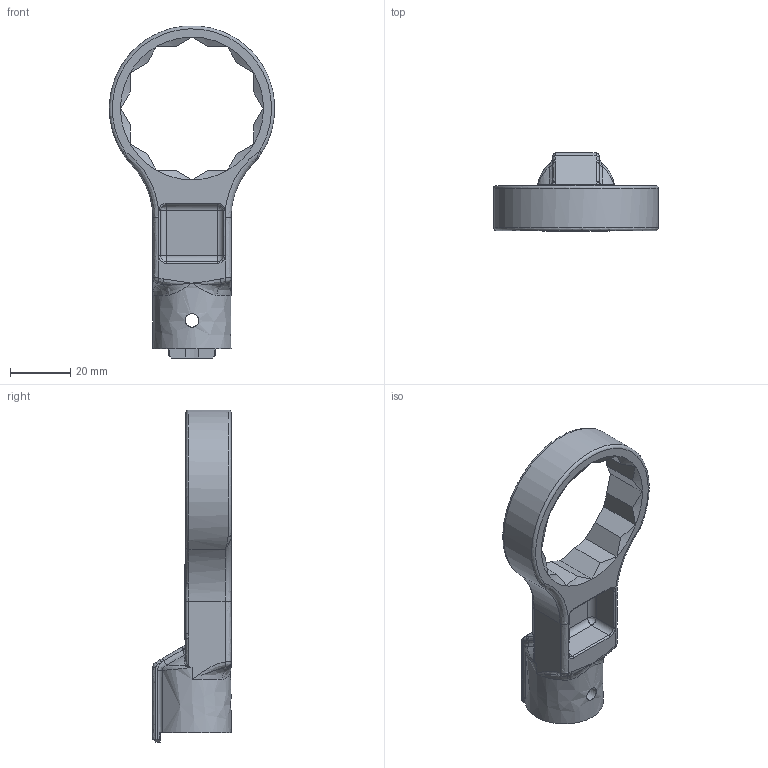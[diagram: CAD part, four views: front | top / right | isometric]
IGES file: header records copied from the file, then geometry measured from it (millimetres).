
Global section: file name: RH19DX41; native system: Autodesk Inventor 2016; preprocessor: unknown; author: q588; date: 20151110.164722; units: millimetre
Bounding box: 54.96 x 26 x 110.43 mm (x, y, z)
Volume: 27197.4 mm3; surface area: 13119.8 mm2
Topology: 1 solids, 1 shells, 188 faces, 472 edges, 267 vertices
Faces by surface type: bspline 188
